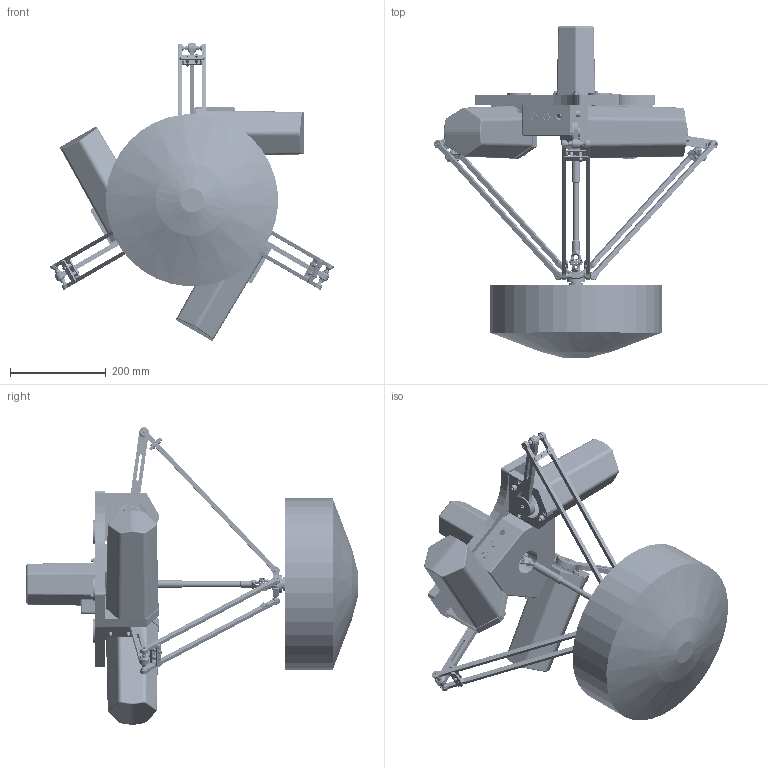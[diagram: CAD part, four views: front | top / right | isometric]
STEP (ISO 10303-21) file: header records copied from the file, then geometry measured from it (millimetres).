
FILE_DESCRIPTION (( 'STEP AP214' ), '1' );
FILE_NAME ('Bat360-S1Ä£ÐÍ±àÂë1.110S1.00.000.B-20250206.STEP', '2025-02-06T01:35:55', ( '' ), ( '' ), 'SwSTEP 2.0', 'SolidWorks 2021', '' );
FILE_SCHEMA (( 'AUTOMOTIVE_DESIGN' ));
Length unit declared in the file: millimetre
Products named in the file (14): Bat360-S1耀倰晤鎢1.110S1.00.000.B-20250206; 复件 万向节^Bat360-S1可动模型编码1.110S1.00.000.B-20250206; 复件 套筒^Bat360-S1可动模型编码1.110S1.00.000.B-20250206; 复件 360工作空间^Bat360-S1可动模型编码1.110S1.00.000.B-20250206; 复件 上臂^Bat360-S1可动模型编码1.110S1.00.000.B-20250206; 复件 1.110A1.23.202.A(默认)^复件 万向节_Bat360-S1可动模型编码1.110S1.00.000.B-20250206; 复件 轴^Bat360-S1可动模型编码1.110S1.00.000.B-20250206; 复件 连接法兰^Bat360-S1可动模型编码1.110S1.00.000.B-20250206; 复件 下臂连接^Bat360-S1可动模型编码1.110S1.00.000.B-20250206; 复件 静平台^Bat360-S1可动模型编码1.110S1.00.000.B-20250206; 复件 动平台^Bat360-S1可动模型编码1.110S1.00.000.B-20250206; 复件 下臂^Bat360-S1可动模型编码1.110S1.00.000.B-20250206; 复件 中心块^复件 万向节_Bat360-S1可动模型编码1.110S1.00.000.B-20250206
Assembly tree (26 placements, depth 3):
  Bat360-S1耀倰晤鎢1.110S1.00.000.B-20250206
    复件 静平台^Bat360-S1可动模型编码1.110S1.00.000.B-20250206
    复件 上臂^Bat360-S1可动模型编码1.110S1.00.000.B-20250206  x3
    复件 下臂^Bat360-S1可动模型编码1.110S1.00.000.B-20250206  x6
    复件 下臂连接^Bat360-S1可动模型编码1.110S1.00.000.B-20250206  x3
    复件 动平台^Bat360-S1可动模型编码1.110S1.00.000.B-20250206
    复件 万向节^Bat360-S1可动模型编码1.110S1.00.000.B-20250206
      复件 1.110A1.23.202.A(默认)^复件 万向节_Bat360-S1可动模型编码1.110S1.00.000.B-20250206  x2
      复件 中心块^复件 万向节_Bat360-S1可动模型编码1.110S1.00.000.B-20250206
    复件 万向节^Bat360-S1可动模型编码1.110S1.00.000.B-20250206
      复件 1.110A1.23.202.A(默认)^复件 万向节_Bat360-S1可动模型编码1.110S1.00.000.B-20250206  x2
      复件 中心块^复件 万向节_Bat360-S1可动模型编码1.110S1.00.000.B-20250206
    复件 连接法兰^Bat360-S1可动模型编码1.110S1.00.000.B-20250206
    复件 轴^Bat360-S1可动模型编码1.110S1.00.000.B-20250206
    复件 套筒^Bat360-S1可动模型编码1.110S1.00.000.B-20250206
    复件 360工作空间^Bat360-S1可动模型编码1.110S1.00.000.B-20250206
Bounding box: 594.09 x 694 x 622.39 mm (x, y, z)
Volume: 14912020.4 mm3; surface area: 1587777.2 mm2
Topology: 285 solids, 285 shells, 6600 faces, 15372 edges, 9578 vertices
Faces by surface type: cylinder 2576, plane 2217, bspline 750, cone 641, torus 354, sphere 62
Entity records: 223820 total; most frequent: CARTESIAN_POINT 51496, DIRECTION 24103, ORIENTED_EDGE 23604, EDGE_CURVE 11802, AXIS2_PLACEMENT_3D 9320, VERTEX_POINT 7455, EDGE_LOOP 5733, LINE 5463
